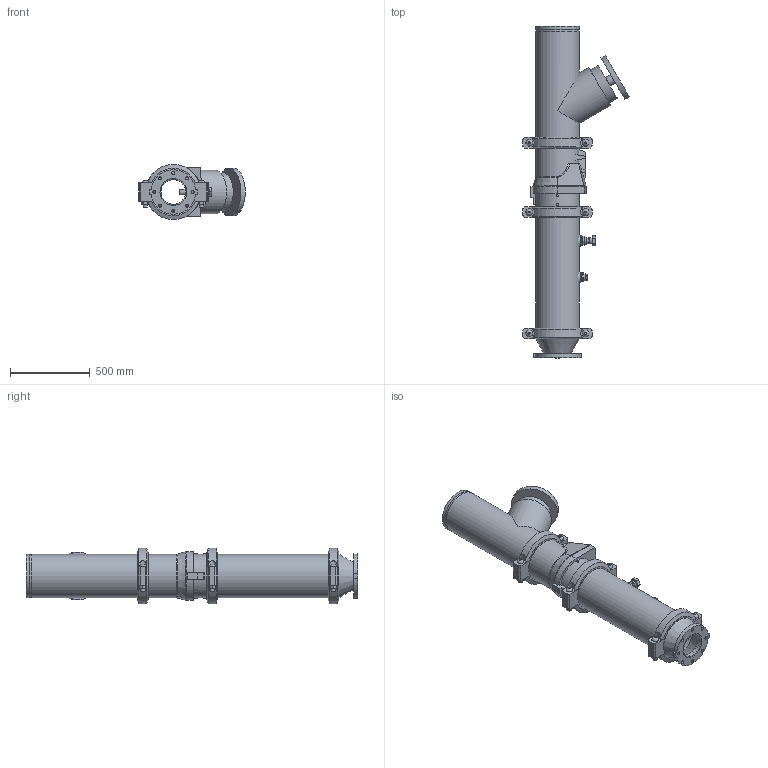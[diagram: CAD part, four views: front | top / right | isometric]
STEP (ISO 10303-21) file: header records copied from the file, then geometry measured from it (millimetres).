
FILE_DESCRIPTION(/* description */ ('VIC DVI PUMP DROP VERT S/383 (OGSxFLG) (S/924-1.25)','CAx-IF Rec.Pracs.---Representation and Presentation of Product Manufacturing Information (PMI)---4.0---2014-10-13'),/* implementation_level */ '2;1');
FILE_NAME(/* name */ 'C:\Users\Public\Documents\Victaulic.Temp\A849\Victaulic_IPS_Vertical DVI_CL 150_Series 383 (OGSxFLG)_924 (1.25)_10.0x06.0 (250x150).stp',/* time_stamp */ '2022-07-25T11:42:01+02:00',/* author */ ('Vjadhav'),/* organization */ ('Victaulic'),/* preprocessor_version */ 'ST-DEVELOPER v18',/* originating_system */ 'Autodesk Inventor 2020',/* authorisation */ '');
FILE_SCHEMA (('AP242_MANAGED_MODEL_BASED_3D_ENGINEERING_MIM_LF { 1 0 10303 442 1 1 4 }'));
Length unit declared in the file: inch
Products named in the file (9): 383_924 (1.25)-10.0x06.0; 741-06.0; 050-10.0x06.0; Pipe-10.0; 789-10.0; 779-10.0; 924-10.0x01.25; 923-10.0x0.75; 077-10.0
Assembly tree (10 placements, depth 2):
  383_924 (1.25)-10.0x06.0
    741-06.0
    050-10.0x06.0
    Pipe-10.0
    789-10.0
    779-10.0
    924-10.0x01.25
    923-10.0x0.75
    077-10.0  x3
Bounding box: 668.4 x 2081.28 x 344.9 mm (x, y, z)
Volume: 44407995.4 mm3; surface area: 5010511.5 mm2
Topology: 10 solids, 17 shells, 452 faces, 1122 edges, 769 vertices
Faces by surface type: plane 271, cylinder 148, cone 19, bspline 8, torus 6
Full cylindrical faces by diameter (mm): 13.716 x4, 19.05 x8, 21.336 x2, 25.4 x12, 26.67 x2, 27.432 x6, 38.608 x1, 42.164 x1, 45.974 x4, 48.514 x1, 55.626 x2, 60.96 x1, 76.2 x1, 154.051 x1, 163.957 x1, 168.275 x3, 237.49 x1, 254.508 x4, 264.16 x3, 268.275 x7, 273.05 x19, 299.974 x1
Entity records: 11270 total; most frequent: CARTESIAN_POINT 2196, DIRECTION 1858, ORIENTED_EDGE 1664, EDGE_CURVE 832, AXIS2_PLACEMENT_3D 711, VERTEX_POINT 573, LINE 436, VECTOR 436
